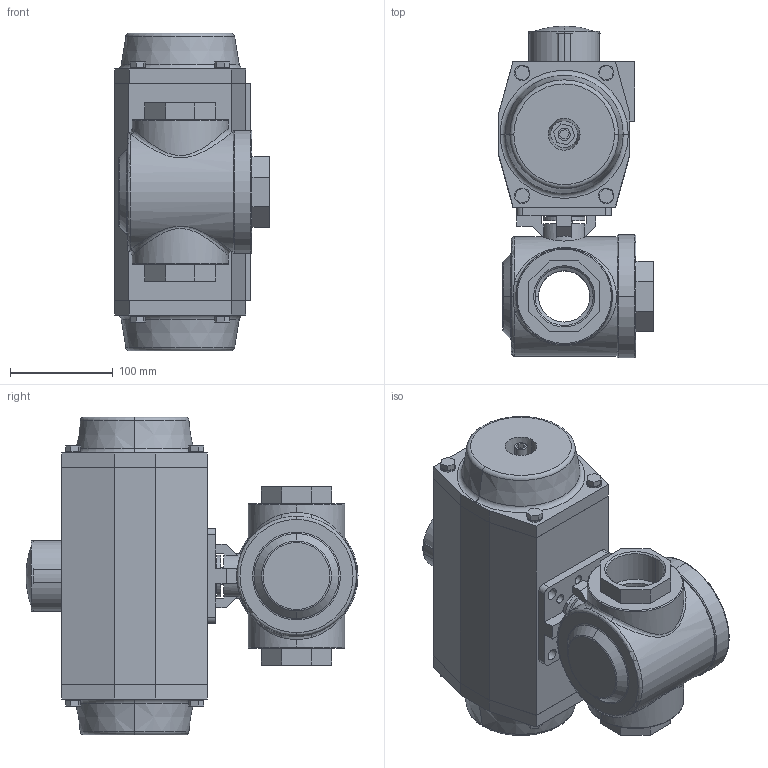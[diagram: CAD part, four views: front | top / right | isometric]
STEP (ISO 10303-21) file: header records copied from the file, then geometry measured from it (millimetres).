
FILE_DESCRIPTION (( 'STEP AP214' ), '1' );
FILE_NAME ('S57D DN50 G2 + AP4.5S.STEP', '2016-12-19T11:07:07', ( 'Gebruiker' ), ( 'Hewlett-Packard Company' ), 'SwSTEP 2.0', 'SolidWorks 2015', '' );
FILE_SCHEMA (( 'AUTOMOTIVE_DESIGN' ));
Length unit declared in the file: millimetre
Products named in the file (3): S57D DN50-G2 FB; AP4.5_Default<As Machined>; S57D DN50 G2 + AP4.5S
Assembly tree (2 placements, depth 2):
  S57D DN50 G2 + AP4.5S
    AP4.5_Default<As Machined>
    S57D DN50-G2 FB
Bounding box: 151 x 323.9 x 310 mm (x, y, z)
Volume: 6347039.4 mm3; surface area: 379718.1 mm2
Topology: 13 solids, 13 shells, 512 faces, 1252 edges, 771 vertices
Faces by surface type: plane 287, cylinder 133, cone 62, torus 24, bspline 4, sphere 2
Entity records: 17800 total; most frequent: CARTESIAN_POINT 4422, DIRECTION 2608, ORIENTED_EDGE 2432, EDGE_CURVE 1216, AXIS2_PLACEMENT_3D 911, VECTOR 786, LINE 786, VERTEX_POINT 771
